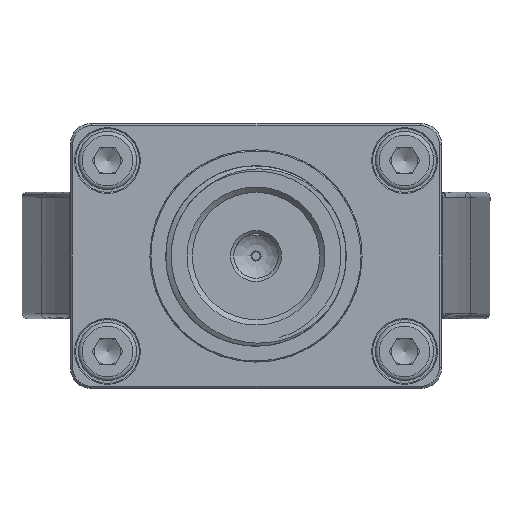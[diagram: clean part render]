
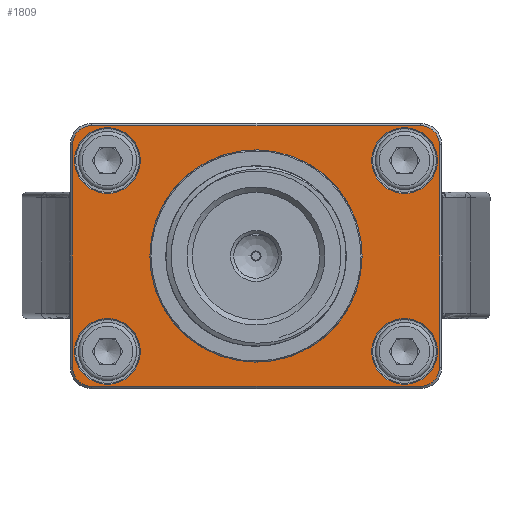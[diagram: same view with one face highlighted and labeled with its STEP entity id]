
A CAD part, front view. The second image highlights one B-rep face of the part: STEP entity #1809.
In plain terms, the highlighted planar face has unit normal (0, -1, 0).
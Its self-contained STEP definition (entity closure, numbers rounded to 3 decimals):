
#714=FACE_BOUND('',#3270,.T.);
#715=FACE_BOUND('',#3271,.T.);
#716=FACE_BOUND('',#3272,.T.);
#717=FACE_BOUND('',#3273,.T.);
#718=FACE_BOUND('',#3274,.T.);
#719=FACE_BOUND('',#3275,.T.);
#1240=CIRCLE('',#10413,10.);
#1241=CIRCLE('',#10415,3.1);
#1242=CIRCLE('',#10417,3.1);
#1243=CIRCLE('',#10419,3.1);
#1244=CIRCLE('',#10421,3.1);
#1245=CIRCLE('',#10423,1.8);
#1246=CIRCLE('',#10424,1.8);
#1247=CIRCLE('',#10425,1.8);
#1248=CIRCLE('',#10426,1.8);
#1809=ADVANCED_FACE('',(#714,#715,#716,#717,#718,#719),#2286,.T.);
#2286=PLANE('',#10427);
#3270=EDGE_LOOP('',(#5405,#5406,#5407,#5408,#5409,#5410,#5411,#5412));
#3271=EDGE_LOOP('',(#5413));
#3272=EDGE_LOOP('',(#5414));
#3273=EDGE_LOOP('',(#5415));
#3274=EDGE_LOOP('',(#5416));
#3275=EDGE_LOOP('',(#5417));
#5405=ORIENTED_EDGE('',*,*,#8014,.T.);
#5406=ORIENTED_EDGE('',*,*,#8015,.T.);
#5407=ORIENTED_EDGE('',*,*,#8016,.T.);
#5408=ORIENTED_EDGE('',*,*,#8017,.T.);
#5409=ORIENTED_EDGE('',*,*,#8018,.T.);
#5410=ORIENTED_EDGE('',*,*,#8019,.T.);
#5411=ORIENTED_EDGE('',*,*,#8020,.T.);
#5412=ORIENTED_EDGE('',*,*,#8021,.T.);
#5413=ORIENTED_EDGE('',*,*,#8013,.T.);
#5414=ORIENTED_EDGE('',*,*,#8012,.T.);
#5415=ORIENTED_EDGE('',*,*,#8011,.T.);
#5416=ORIENTED_EDGE('',*,*,#8010,.T.);
#5417=ORIENTED_EDGE('',*,*,#8009,.T.);
#6827=VERTEX_POINT('',#17441);
#6828=VERTEX_POINT('',#17444);
#6829=VERTEX_POINT('',#17447);
#6830=VERTEX_POINT('',#17450);
#6831=VERTEX_POINT('',#17453);
#6832=VERTEX_POINT('',#17456);
#6833=VERTEX_POINT('',#17457);
#6834=VERTEX_POINT('',#17459);
#6835=VERTEX_POINT('',#17461);
#6836=VERTEX_POINT('',#17463);
#6837=VERTEX_POINT('',#17465);
#6838=VERTEX_POINT('',#17467);
#6839=VERTEX_POINT('',#17469);
#8009=EDGE_CURVE('',#6827,#6827,#1240,.T.);
#8010=EDGE_CURVE('',#6828,#6828,#1241,.T.);
#8011=EDGE_CURVE('',#6829,#6829,#1242,.T.);
#8012=EDGE_CURVE('',#6830,#6830,#1243,.T.);
#8013=EDGE_CURVE('',#6831,#6831,#1244,.T.);
#8014=EDGE_CURVE('',#6832,#6833,#8943,.T.);
#8015=EDGE_CURVE('',#6833,#6834,#1245,.T.);
#8016=EDGE_CURVE('',#6834,#6835,#8944,.T.);
#8017=EDGE_CURVE('',#6835,#6836,#1246,.T.);
#8018=EDGE_CURVE('',#6836,#6837,#8945,.T.);
#8019=EDGE_CURVE('',#6837,#6838,#1247,.T.);
#8020=EDGE_CURVE('',#6838,#6839,#8946,.T.);
#8021=EDGE_CURVE('',#6839,#6832,#1248,.T.);
#8943=LINE('',#17455,#9626);
#8944=LINE('',#17460,#9627);
#8945=LINE('',#17464,#9628);
#8946=LINE('',#17468,#9629);
#9626=VECTOR('',#12660,1.);
#9627=VECTOR('',#12663,1.);
#9628=VECTOR('',#12666,1.);
#9629=VECTOR('',#12669,1.);
#10413=AXIS2_PLACEMENT_3D('',#17440,#12640,#12641);
#10415=AXIS2_PLACEMENT_3D('',#17443,#12644,#12645);
#10417=AXIS2_PLACEMENT_3D('',#17446,#12648,#12649);
#10419=AXIS2_PLACEMENT_3D('',#17449,#12652,#12653);
#10421=AXIS2_PLACEMENT_3D('',#17452,#12656,#12657);
#10423=AXIS2_PLACEMENT_3D('',#17458,#12661,#12662);
#10424=AXIS2_PLACEMENT_3D('',#17462,#12664,#12665);
#10425=AXIS2_PLACEMENT_3D('',#17466,#12667,#12668);
#10426=AXIS2_PLACEMENT_3D('',#17470,#12670,#12671);
#10427=AXIS2_PLACEMENT_3D('',#17471,#12672,#12673);
#12640=DIRECTION('',(0.,1.,0.));
#12641=DIRECTION('',(1.,0.,0.));
#12644=DIRECTION('',(0.,1.,0.));
#12645=DIRECTION('',(0.,0.,-1.));
#12648=DIRECTION('',(0.,1.,0.));
#12649=DIRECTION('',(0.,0.,-1.));
#12652=DIRECTION('',(0.,1.,0.));
#12653=DIRECTION('',(0.,0.,-1.));
#12656=DIRECTION('',(0.,1.,0.));
#12657=DIRECTION('',(0.,0.,-1.));
#12660=DIRECTION('',(-1.,0.,0.));
#12661=DIRECTION('',(0.,-1.,0.));
#12662=DIRECTION('',(0.,0.,-1.));
#12663=DIRECTION('',(0.,0.,-1.));
#12664=DIRECTION('',(0.,-1.,0.));
#12665=DIRECTION('',(0.,0.,-1.));
#12666=DIRECTION('',(1.,0.,0.));
#12667=DIRECTION('',(0.,-1.,0.));
#12668=DIRECTION('',(0.,0.,-1.));
#12669=DIRECTION('',(0.,0.,1.));
#12670=DIRECTION('',(0.,-1.,0.));
#12671=DIRECTION('',(0.,0.,-1.));
#12672=DIRECTION('',(0.,-1.,0.));
#12673=DIRECTION('',(-1.,0.,0.));
#17440=CARTESIAN_POINT('',(0.,-29.5,-12.5));
#17441=CARTESIAN_POINT('',(10.,-29.5,-12.5));
#17443=CARTESIAN_POINT('',(14.,-29.5,-21.5));
#17444=CARTESIAN_POINT('',(14.,-29.5,-24.6));
#17446=CARTESIAN_POINT('',(14.,-29.5,-3.5));
#17447=CARTESIAN_POINT('',(14.,-29.5,-6.6));
#17449=CARTESIAN_POINT('',(-14.,-29.5,-3.5));
#17450=CARTESIAN_POINT('',(-14.,-29.5,-6.6));
#17452=CARTESIAN_POINT('',(-14.,-29.5,-21.5));
#17453=CARTESIAN_POINT('',(-14.,-29.5,-24.6));
#17455=CARTESIAN_POINT('',(-14.,-29.5,-0.2));
#17456=CARTESIAN_POINT('',(15.5,-29.5,-0.2));
#17457=CARTESIAN_POINT('',(-15.5,-29.5,-0.2));
#17458=CARTESIAN_POINT('',(-15.5,-29.5,-2.));
#17459=CARTESIAN_POINT('',(-17.3,-29.5,-2.));
#17460=CARTESIAN_POINT('',(-17.3,-29.5,-21.5));
#17461=CARTESIAN_POINT('',(-17.3,-29.5,-23.));
#17462=CARTESIAN_POINT('',(-15.5,-29.5,-23.));
#17463=CARTESIAN_POINT('',(-15.5,-29.5,-24.8));
#17464=CARTESIAN_POINT('',(-14.,-29.5,-24.8));
#17465=CARTESIAN_POINT('',(15.5,-29.5,-24.8));
#17466=CARTESIAN_POINT('',(15.5,-29.5,-23.));
#17467=CARTESIAN_POINT('',(17.3,-29.5,-23.));
#17468=CARTESIAN_POINT('',(17.3,-29.5,-21.5));
#17469=CARTESIAN_POINT('',(17.3,-29.5,-2.));
#17470=CARTESIAN_POINT('',(15.5,-29.5,-2.));
#17471=CARTESIAN_POINT('',(-14.,-29.5,-21.5));
